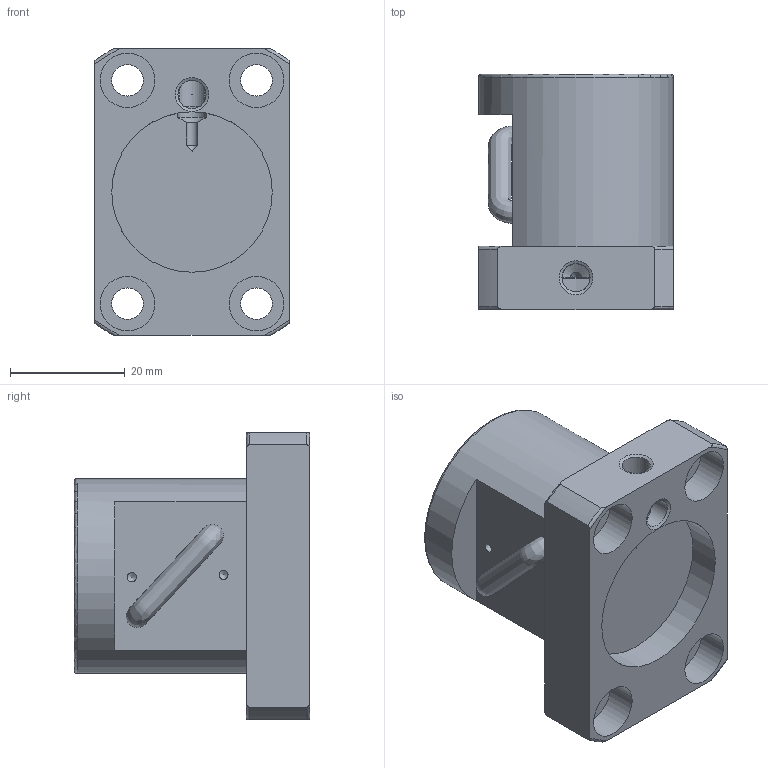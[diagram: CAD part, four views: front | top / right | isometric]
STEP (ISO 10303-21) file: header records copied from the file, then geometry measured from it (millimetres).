
FILE_DESCRIPTION(/* description */ ('Unknown'),/* implementation_level */ '2;1');
FILE_NAME(/* name */ '1505',/* time_stamp */ '2020-11-06T17:10:22+08:00',/* author */ ('Unknown'),/* organization */ ('Unknown'),/* preprocessor_version */ 'ST-DEVELOPER v16.7',/* originating_system */ 'DEX',/* authorisation */ $);
FILE_SCHEMA (('AUTOMOTIVE_DESIGN {1 0 10303 214 3 1 1}'));
Length unit declared in the file: millimetre
Products named in the file (1): 1505
Bounding box: 34 x 41 x 50 mm (x, y, z)
Volume: 34421.4 mm3; surface area: 10735.5 mm2
Topology: 1 solids, 1 shells, 60 faces, 161 edges, 106 vertices
Faces by surface type: cylinder 26, plane 15, cone 9, torus 9, bspline 1
Full cylindrical faces by diameter (mm): 1.567 x2, 4.917 x3, 5.5 x4, 9.5 x4, 28 x2, 34 x1
Entity records: 3889 total; most frequent: CARTESIAN_POINT 2104, DIRECTION 289, ORIENTED_EDGE 240, AXIS2_PLACEMENT_3D 130, EDGE_CURVE 120, FACE_BOUND 103, EDGE_LOOP 100, VERTEX_POINT 93
